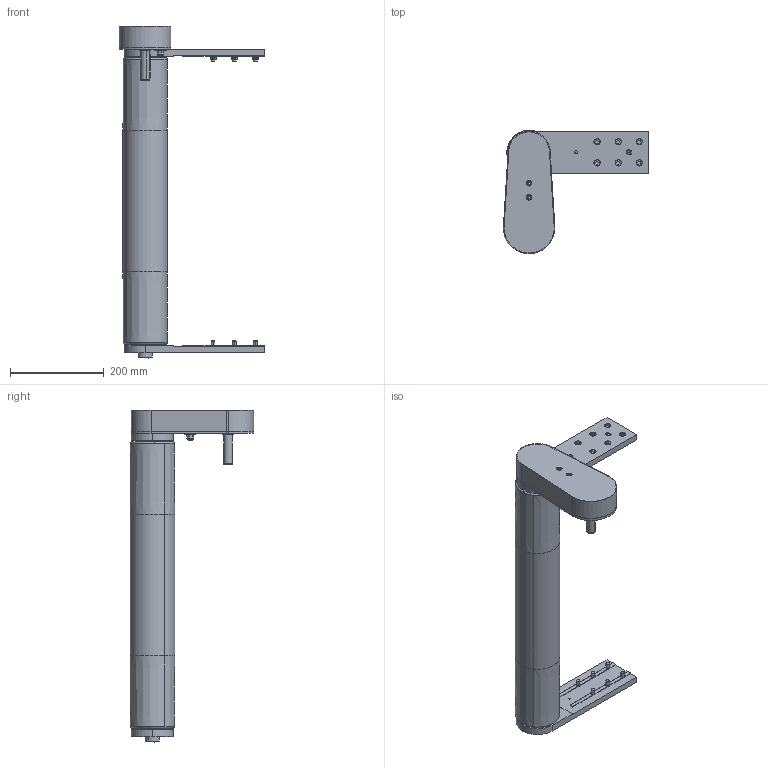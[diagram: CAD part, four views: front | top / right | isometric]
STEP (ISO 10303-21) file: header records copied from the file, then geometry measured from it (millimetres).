
FILE_DESCRIPTION (( 'STEP AP214' ), '1' );
FILE_NAME ('084.095.KTB.44.585.STEP', '2020-03-11T11:14:09', ( '' ), ( '' ), 'SwSTEP 2.0', 'SolidWorks 2018', '' );
FILE_SCHEMA (( 'AUTOMOTIVE_DESIGN' ));
Length unit declared in the file: millimetre
Products named in the file (25): CHIAVETTE_A 6x6x50 UNI 6604-69; Circlip DIN 471 - 8 x 0.8_Circlip DIN 471 - 8 x 0.8; 084.821.002; 084.802.034_084.802.034; RONDELLE FASCIA LARGA UNI 6593_8.4x24 UNI 6593; 084.809.003; 084.813.002; 084.812.003; 084.813.004; ANELLI ELASTICI PER ESTERNI UNI 7435-75_8 UNI 7435; 084.802.019_084.802.019; 084.821.003; 084.810.008; 084.302.000 DADI ALUSIC 13x13_084.302.004; CUSCINETTI A SFERE_608-2RS; DADI ESAGONALI AUTOBLOCCANTI UNI 7473_M8 UNI 7473; 084.301.000 VITI ALUSIC_084.301.003; CHIAVETTE_A 8x7x25 UNI 6604-69; 084.808.003_084.808.003; 084.816.108_084.816.108; 084.810.003; 084.808.002_084.808.002; 084.095.KTB.44.585; 084.810.006; 084.809.001
Assembly tree (47 placements, depth 3):
  084.095.KTB.44.585
    084.808.003_084.808.003
    084.810.003  x2
    084.808.002_084.808.002
    084.802.034_084.802.034
    084.802.019_084.802.019
    084.812.003
    084.813.002
    084.809.003
    084.821.002  x2
    084.809.001
    084.813.004
    084.816.108_084.816.108
    084.810.006
      084.810.008
      CUSCINETTI A SFERE_608-2RS  x3
      Circlip DIN 471 - 8 x 0.8_Circlip DIN 471 - 8 x 0.8
      RONDELLE FASCIA LARGA UNI 6593_8.4x24 UNI 6593
      DADI ESAGONALI AUTOBLOCCANTI UNI 7473_M8 UNI 7473
    084.821.003
    084.302.000 DADI ALUSIC 13x13_084.302.004  x6
    084.301.000 VITI ALUSIC_084.301.003  x12
    CHIAVETTE_A 6x6x50 UNI 6604-69
    CHIAVETTE_A 8x7x25 UNI 6604-69  x3
    ANELLI ELASTICI PER ESTERNI UNI 7435-75_8 UNI 7435  x2
Bounding box: 310 x 263.87 x 708.5 mm (x, y, z)
Volume: 2344164.2 mm3; surface area: 1058222.1 mm2
Topology: 51 solids, 52 shells, 1750 faces, 4554 edges, 2971 vertices
Faces by surface type: plane 801, cylinder 658, cone 124, torus 110, bspline 48, sphere 9
Entity records: 39869 total; most frequent: CARTESIAN_POINT 8061, DIRECTION 6478, ORIENTED_EDGE 6262, EDGE_CURVE 3131, AXIS2_PLACEMENT_3D 2351, VERTEX_POINT 2050, LINE 1776, VECTOR 1776
